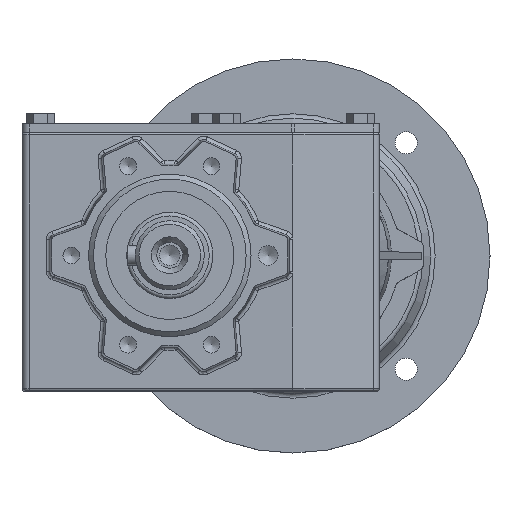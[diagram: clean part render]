
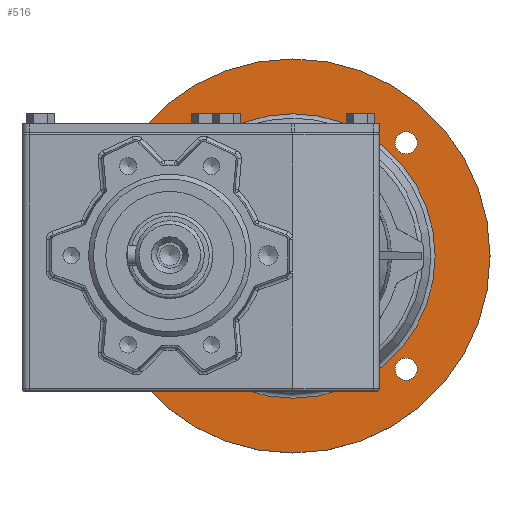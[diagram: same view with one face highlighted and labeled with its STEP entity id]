
A CAD part, top view. The second image highlights one B-rep face of the part: STEP entity #516.
In plain terms, the highlighted planar face has unit normal (0, 0, 1).
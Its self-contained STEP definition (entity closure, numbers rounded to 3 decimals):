
#516 = ADVANCED_FACE( '', ( #1445, #1446, #1447, #1448, #1449, #1450 ), #1451, .F. );
#1445 = FACE_OUTER_BOUND( '', #2944, .T. );
#1446 = FACE_BOUND( '', #2945, .T. );
#1447 = FACE_BOUND( '', #2946, .T. );
#1448 = FACE_BOUND( '', #2947, .T. );
#1449 = FACE_BOUND( '', #2948, .T. );
#1450 = FACE_BOUND( '', #2949, .T. );
#1451 = PLANE( '', #2950 );
#2944 = EDGE_LOOP( '', ( #5514 ) );
#2945 = EDGE_LOOP( '', ( #5515 ) );
#2946 = EDGE_LOOP( '', ( #5516 ) );
#2947 = EDGE_LOOP( '', ( #5517 ) );
#2948 = EDGE_LOOP( '', ( #5518 ) );
#2949 = EDGE_LOOP( '', ( #5519 ) );
#2950 = AXIS2_PLACEMENT_3D( '', #5520, #5521, #5522 );
#5514 = ORIENTED_EDGE( '', *, *, #9183, .T. );
#5515 = ORIENTED_EDGE( '', *, *, #9184, .F. );
#5516 = ORIENTED_EDGE( '', *, *, #9185, .F. );
#5517 = ORIENTED_EDGE( '', *, *, #9186, .F. );
#5518 = ORIENTED_EDGE( '', *, *, #9187, .F. );
#5519 = ORIENTED_EDGE( '', *, *, #9188, .F. );
#5520 = CARTESIAN_POINT( '', ( 50., 59.5, -124.3 ) );
#5521 = DIRECTION( '', ( 0., 0., -1. ) );
#5522 = DIRECTION( '', ( 1., 0., 0. ) );
#9183 = EDGE_CURVE( '', #10749, #10749, #10750, .T. );
#9184 = EDGE_CURVE( '', #10751, #10751, #10752, .T. );
#9185 = EDGE_CURVE( '', #10753, #10753, #10754, .T. );
#9186 = EDGE_CURVE( '', #10755, #10755, #10756, .T. );
#9187 = EDGE_CURVE( '', #10757, #10757, #10758, .T. );
#9188 = EDGE_CURVE( '', #10759, #10759, #10760, .T. );
#10749 = VERTEX_POINT( '', #13080 );
#10750 = CIRCLE( '', #13081, 80. );
#10751 = VERTEX_POINT( '', #13082 );
#10752 = CIRCLE( '', #13083, 4.5 );
#10753 = VERTEX_POINT( '', #13084 );
#10754 = CIRCLE( '', #13085, 4.5 );
#10755 = VERTEX_POINT( '', #13086 );
#10756 = CIRCLE( '', #13087, 4.5 );
#10757 = VERTEX_POINT( '', #13088 );
#10758 = CIRCLE( '', #13089, 4.5 );
#10759 = VERTEX_POINT( '', #13090 );
#10760 = CIRCLE( '', #13091, 57.736 );
#13080 = CARTESIAN_POINT( '', ( 50., -80., -124.3 ) );
#13081 = AXIS2_PLACEMENT_3D( '', #17245, #17246, #17247 );
#13082 = CARTESIAN_POINT( '', ( 8.538, -45.962, -124.3 ) );
#13083 = AXIS2_PLACEMENT_3D( '', #17248, #17249, #17250 );
#13084 = CARTESIAN_POINT( '', ( 100.462, -45.962, -124.3 ) );
#13085 = AXIS2_PLACEMENT_3D( '', #17251, #17252, #17253 );
#13086 = CARTESIAN_POINT( '', ( 8.538, 45.962, -124.3 ) );
#13087 = AXIS2_PLACEMENT_3D( '', #17254, #17255, #17256 );
#13088 = CARTESIAN_POINT( '', ( 100.462, 45.962, -124.3 ) );
#13089 = AXIS2_PLACEMENT_3D( '', #17257, #17258, #17259 );
#13090 = CARTESIAN_POINT( '', ( 50., -57.736, -124.3 ) );
#13091 = AXIS2_PLACEMENT_3D( '', #17260, #17261, #17262 );
#17245 = CARTESIAN_POINT( '', ( 50., 0., -124.3 ) );
#17246 = DIRECTION( '', ( 0., 0., 1. ) );
#17247 = DIRECTION( '', ( 0., -1., 0. ) );
#17248 = CARTESIAN_POINT( '', ( 4.038, -45.962, -124.3 ) );
#17249 = DIRECTION( '', ( 0., 0., 1. ) );
#17250 = DIRECTION( '', ( 1., 0., 0. ) );
#17251 = CARTESIAN_POINT( '', ( 95.962, -45.962, -124.3 ) );
#17252 = DIRECTION( '', ( 0., 0., 1. ) );
#17253 = DIRECTION( '', ( 1., 0., 0. ) );
#17254 = CARTESIAN_POINT( '', ( 4.038, 45.962, -124.3 ) );
#17255 = DIRECTION( '', ( 0., 0., 1. ) );
#17256 = DIRECTION( '', ( 1., 0., 0. ) );
#17257 = CARTESIAN_POINT( '', ( 95.962, 45.962, -124.3 ) );
#17258 = DIRECTION( '', ( 0., 0., 1. ) );
#17259 = DIRECTION( '', ( 1., 0., 0. ) );
#17260 = CARTESIAN_POINT( '', ( 50., 0., -124.3 ) );
#17261 = DIRECTION( '', ( 0., 0., 1. ) );
#17262 = DIRECTION( '', ( 0., -1., 0. ) );
